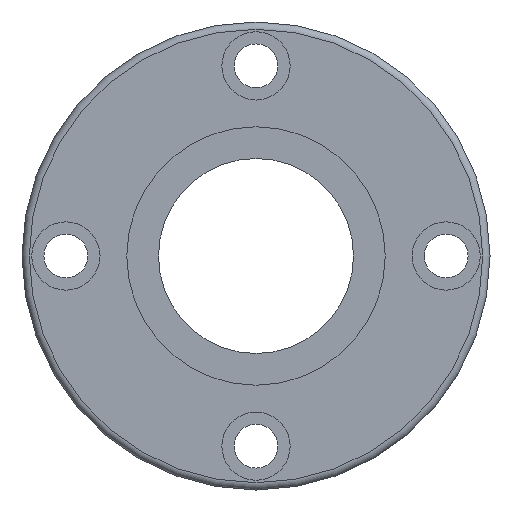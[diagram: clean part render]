
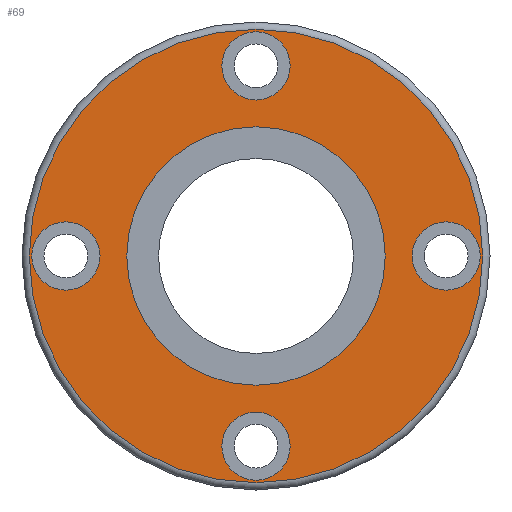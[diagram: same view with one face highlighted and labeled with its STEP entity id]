
A CAD part, left-side view. The second image highlights one B-rep face of the part: STEP entity #69.
In plain terms, the highlighted planar face has unit normal (-1, 0, 0).
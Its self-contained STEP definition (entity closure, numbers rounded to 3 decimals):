
#69 = ADVANCED_FACE( '', ( #162, #163, #164, #165, #166, #167 ), #168, .T. );
#162 = FACE_BOUND( '', #285, .T. );
#163 = FACE_BOUND( '', #286, .T. );
#164 = FACE_BOUND( '', #287, .T. );
#165 = FACE_BOUND( '', #288, .T. );
#166 = FACE_BOUND( '', #289, .T. );
#167 = FACE_OUTER_BOUND( '', #290, .T. );
#168 = PLANE( '', #291 );
#285 = EDGE_LOOP( '', ( #420 ) );
#286 = EDGE_LOOP( '', ( #421 ) );
#287 = EDGE_LOOP( '', ( #422 ) );
#288 = EDGE_LOOP( '', ( #423 ) );
#289 = EDGE_LOOP( '', ( #424 ) );
#290 = EDGE_LOOP( '', ( #425 ) );
#291 = AXIS2_PLACEMENT_3D( '', #426, #427, #428 );
#420 = ORIENTED_EDGE( '', *, *, #559, .T. );
#421 = ORIENTED_EDGE( '', *, *, #560, .T. );
#422 = ORIENTED_EDGE( '', *, *, #561, .T. );
#423 = ORIENTED_EDGE( '', *, *, #562, .T. );
#424 = ORIENTED_EDGE( '', *, *, #563, .F. );
#425 = ORIENTED_EDGE( '', *, *, #556, .T. );
#426 = CARTESIAN_POINT( '', ( 0., 37.15, 0. ) );
#427 = DIRECTION( '', ( -1., 0., 0. ) );
#428 = DIRECTION( '', ( 0., 1., 0. ) );
#556 = EDGE_CURVE( '', #630, #630, #631, .T. );
#559 = EDGE_CURVE( '', #635, #635, #636, .T. );
#560 = EDGE_CURVE( '', #637, #637, #638, .T. );
#561 = EDGE_CURVE( '', #639, #639, #640, .T. );
#562 = EDGE_CURVE( '', #641, #641, #642, .T. );
#563 = EDGE_CURVE( '', #643, #643, #644, .T. );
#630 = VERTEX_POINT( '', #719 );
#631 = CIRCLE( '', #720, 46.5 );
#635 = VERTEX_POINT( '', #724 );
#636 = CIRCLE( '', #725, 7. );
#637 = VERTEX_POINT( '', #726 );
#638 = CIRCLE( '', #727, 7. );
#639 = VERTEX_POINT( '', #728 );
#640 = CIRCLE( '', #729, 7. );
#641 = VERTEX_POINT( '', #730 );
#642 = CIRCLE( '', #731, 7. );
#643 = VERTEX_POINT( '', #732 );
#644 = CIRCLE( '', #733, 26.5 );
#719 = CARTESIAN_POINT( '', ( 0., 46.5, 0. ) );
#720 = AXIS2_PLACEMENT_3D( '', #815, #816, #817 );
#724 = CARTESIAN_POINT( '', ( 0., 0., -46. ) );
#725 = AXIS2_PLACEMENT_3D( '', #821, #822, #823 );
#726 = CARTESIAN_POINT( '', ( 0., 0., 46. ) );
#727 = AXIS2_PLACEMENT_3D( '', #824, #825, #826 );
#728 = CARTESIAN_POINT( '', ( 0., 46., 0. ) );
#729 = AXIS2_PLACEMENT_3D( '', #827, #828, #829 );
#730 = CARTESIAN_POINT( '', ( 0., -46., 0. ) );
#731 = AXIS2_PLACEMENT_3D( '', #830, #831, #832 );
#732 = CARTESIAN_POINT( '', ( 0., 26.5, 0. ) );
#733 = AXIS2_PLACEMENT_3D( '', #833, #834, #835 );
#815 = CARTESIAN_POINT( '', ( 0., 0., 0. ) );
#816 = DIRECTION( '', ( -1., 0., 0. ) );
#817 = DIRECTION( '', ( 0., 0., 1. ) );
#821 = CARTESIAN_POINT( '', ( 0., 0., -39. ) );
#822 = DIRECTION( '', ( 1., 0., 0. ) );
#823 = DIRECTION( '', ( 0., 0., -1. ) );
#824 = CARTESIAN_POINT( '', ( 0., 0., 39. ) );
#825 = DIRECTION( '', ( 1., 0., 0. ) );
#826 = DIRECTION( '', ( 0., 0., 1. ) );
#827 = CARTESIAN_POINT( '', ( 0., 39., 0. ) );
#828 = DIRECTION( '', ( 1., 0., 0. ) );
#829 = DIRECTION( '', ( 0., 1., 0. ) );
#830 = CARTESIAN_POINT( '', ( 0., -39., 0. ) );
#831 = DIRECTION( '', ( 1., 0., 0. ) );
#832 = DIRECTION( '', ( 0., -1., 0. ) );
#833 = CARTESIAN_POINT( '', ( 0., 0., 0. ) );
#834 = DIRECTION( '', ( -1., 0., 0. ) );
#835 = DIRECTION( '', ( 0., 1., 0. ) );
